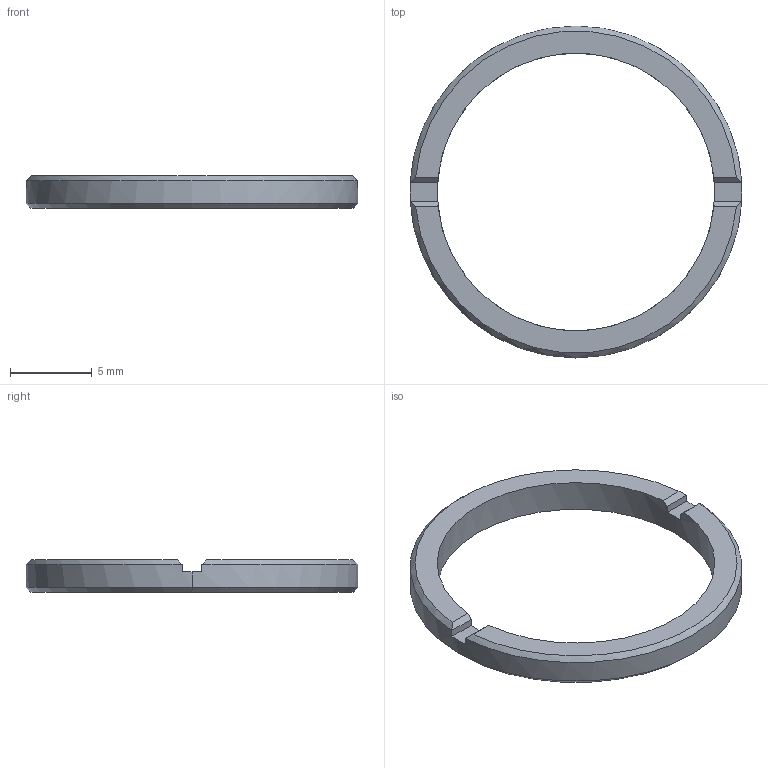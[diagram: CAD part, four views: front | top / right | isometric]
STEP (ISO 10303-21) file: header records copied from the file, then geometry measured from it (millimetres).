
FILE_DESCRIPTION (( 'STEP AP203' ), '1' );
FILE_NAME ('08RR.STEP', '2021-12-13T03:15:45', ( '¦K¬P' ), ( '' ), 'SwSTEP 2.0', 'SolidWorks 2019', '' );
FILE_SCHEMA (( 'CONFIG_CONTROL_DESIGN' ));
Length unit declared in the file: millimetre
Products named in the file (1): 08RR
Bounding box: 20.32 x 20.32 x 2 mm (x, y, z)
Volume: 185.8 mm3; surface area: 406.8 mm2
Topology: 1 solids, 1 shells, 21 faces, 54 edges, 34 vertices
Faces by surface type: plane 13, cone 4, cylinder 4
Entity records: 725 total; most frequent: CARTESIAN_POINT 134, DIRECTION 110, ORIENTED_EDGE 108, EDGE_CURVE 54, AXIS2_PLACEMENT_3D 42, VERTEX_POINT 34, VECTOR 26, LINE 26
